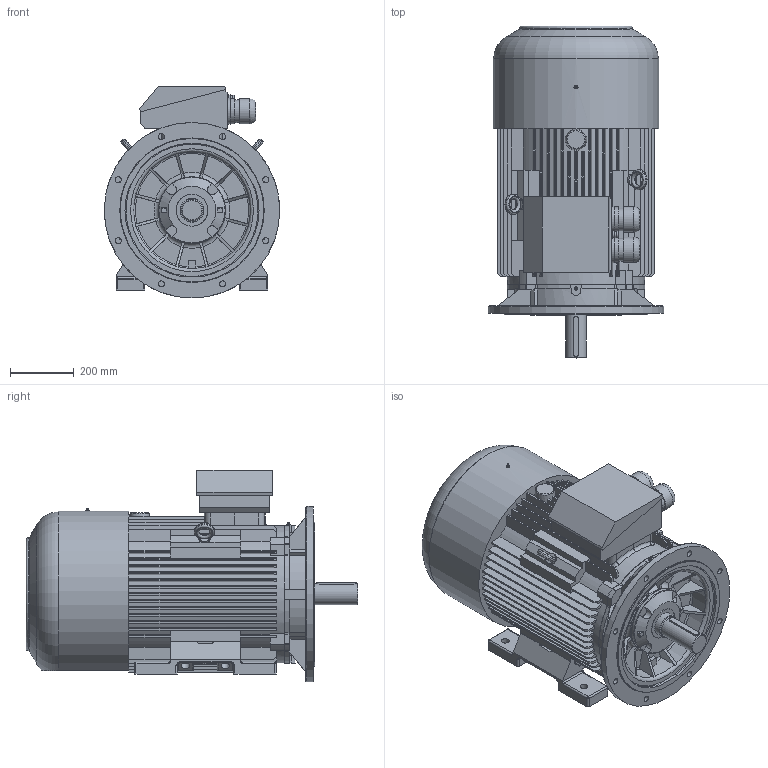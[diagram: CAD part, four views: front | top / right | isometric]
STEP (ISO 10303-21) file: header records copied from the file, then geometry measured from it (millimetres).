
FILE_DESCRIPTION(/* description */ ('Unknown'),/* implementation_level */ '2;1');
FILE_NAME(/* name */ '3SIEL250M4_8',/* time_stamp */ '2021-04-12T13:12:41+02:00',/* author */ ('Unknown'),/* organization */ ('Unknown'),/* preprocessor_version */ 'ST-DEVELOPER v16.7',/* originating_system */ 'DEX',/* authorisation */ $);
FILE_SCHEMA (('AUTOMOTIVE_DESIGN {1 0 10303 214 3 1 1}'));
Length unit declared in the file: millimetre
Products named in the file (1): 2SIEL250_M4_6 silnik
Bounding box: 550 x 1039.99 x 664.3 mm (x, y, z)
Volume: 163511145 mm3; surface area: 4004460.4 mm2
Topology: 3 solids, 6 shells, 1224 faces, 3253 edges, 2030 vertices
Faces by surface type: plane 679, cylinder 328, torus 88, bspline 70, sphere 48, cone 11
Full cylindrical faces by diameter (mm): 1.6 x2, 5 x6, 11.083 x1, 17.5 x4, 19 x9, 21 x1, 23 x1, 24 x4, 26 x4, 27 x1, 35 x4, 40 x2, 65 x1, 71.32 x2, 74.5 x1, 78.781 x2, 80.024 x2, 81.268 x2, 100 x1, 208 x1, 210 x1, 450 x1, 550 x1
Entity records: 47137 total; most frequent: CARTESIAN_POINT 8997, ORIENTED_EDGE 6156, DIRECTION 6100, EDGE_CURVE 3078, AXIS2_PLACEMENT_3D 2130, VERTEX_POINT 1988, LINE 1840, VECTOR 1840
